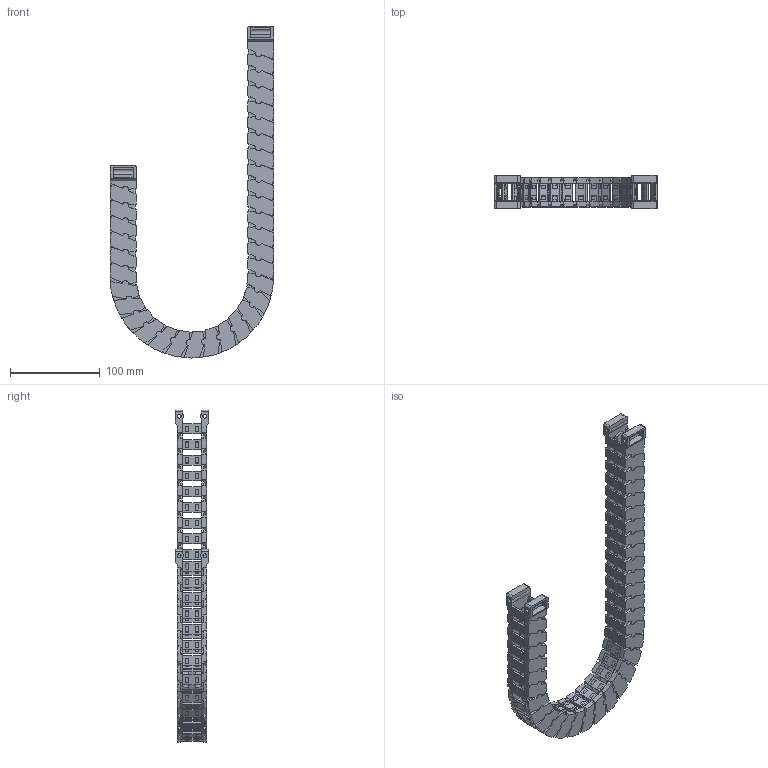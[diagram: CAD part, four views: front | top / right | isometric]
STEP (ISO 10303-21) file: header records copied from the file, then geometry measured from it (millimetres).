
FILE_DESCRIPTION(/* description */ (''),/* implementation_level */ '2;1');
FILE_NAME(/* name */ 'JY22-20-R75.stp',/* time_stamp */ '2026-06-20T14:06:05+08:00',/* author */ (''),/* organization */ (''),/* preprocessor_version */ 'ST-DEVELOPER v19.4',/* originating_system */ 'SIEMENS PLM Software NX2306.5001',/* authorisation */ '');
FILE_SCHEMA (('AP203_CONFIGURATION_CONTROLLED_3D_DESIGN_OF_MECHANICAL_PARTS_AND_ASSEMBLIES_MIM_LF { 1 0 10303 403 2 1 2}'));
Products named in the file (1): 简易图纸_objects
Bounding box: 182.32 x 37.5 x 369.64 mm (x, y, z)
Volume: 236865.3 mm3; surface area: 211481.5 mm2
Topology: 35 solids, 35 shells, 5796 faces, 18770 edges, 12494 vertices
Faces by surface type: plane 4338, cylinder 918, cone 272, bspline 268
Full cylindrical faces by diameter (mm): 4.2 x8, 7 x68, 7.1 x68
Entity records: 215779 total; most frequent: CARTESIAN_POINT 51317, ORIENTED_EDGE 36964, DIRECTION 31874, EDGE_CURVE 18482, LINE 12616, VECTOR 12616, VERTEX_POINT 12350, AXIS2_PLACEMENT_3D 9629
